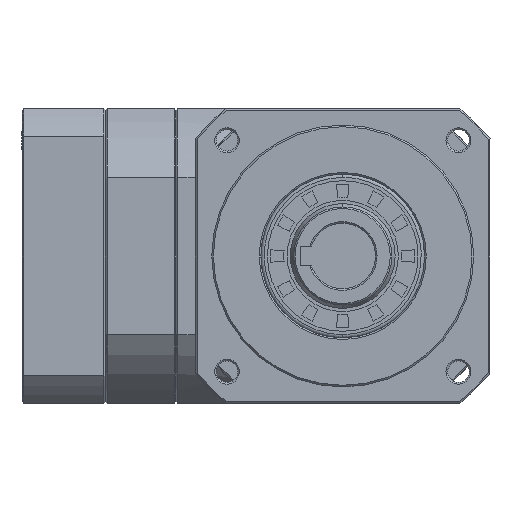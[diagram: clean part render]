
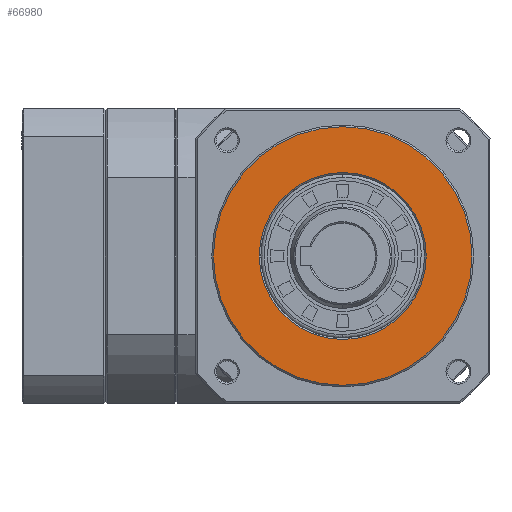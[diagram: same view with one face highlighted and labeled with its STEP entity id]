
A CAD part, left-side view. The second image highlights one B-rep face of the part: STEP entity #66980.
In plain terms, the highlighted planar face has unit normal (-1, 0, 0).
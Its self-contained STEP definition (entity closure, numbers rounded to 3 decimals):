
#1369 = ORIENTED_EDGE ( 'NONE', *, *, #15078, .F. ) ;
#3309 = AXIS2_PLACEMENT_3D ( 'NONE', #13825, #47667, #27480 ) ;
#7196 = FACE_OUTER_BOUND ( 'NONE', #34496, .T. ) ;
#9259 = CIRCLE ( 'NONE', #3309, 39.5 ) ;
#9471 = DIRECTION ( 'NONE',  ( 0., 0., 1. ) ) ;
#12058 = CARTESIAN_POINT ( 'NONE',  ( 0., 0., 39.5 ) ) ;
#13559 = DIRECTION ( 'NONE',  ( 0., 0., 1. ) ) ;
#13825 = CARTESIAN_POINT ( 'NONE',  ( 0., 0., 0. ) ) ;
#15078 = EDGE_CURVE ( 'NONE', #85065, #21469, #24637, .T. ) ;
#17002 = VERTEX_POINT ( 'NONE', #79479 ) ;
#21469 = VERTEX_POINT ( 'NONE', #84766 ) ;
#23231 = DIRECTION ( 'NONE',  ( -1., 0., 0. ) ) ;
#24637 = CIRCLE ( 'NONE', #84249, 25.5 ) ;
#26706 = PLANE ( 'NONE',  #54816 ) ;
#27480 = DIRECTION ( 'NONE',  ( 0., 0., -1. ) ) ;
#27582 = DIRECTION ( 'NONE',  ( 1., 0., 0. ) ) ;
#27898 = ORIENTED_EDGE ( 'NONE', *, *, #35985, .T. ) ;
#34496 = EDGE_LOOP ( 'NONE', ( #52202, #27898 ) ) ;
#35898 = CARTESIAN_POINT ( 'NONE',  ( 0., 0., 0. ) ) ;
#35985 = EDGE_CURVE ( 'NONE', #57656, #17002, #9259, .T. ) ;
#39958 = EDGE_CURVE ( 'NONE', #17002, #57656, #49399, .T. ) ;
#40199 = FACE_BOUND ( 'NONE', #72582, .T. ) ;
#44881 = DIRECTION ( 'NONE',  ( 0., 0., -1. ) ) ;
#47258 = ORIENTED_EDGE ( 'NONE', *, *, #48616, .F. ) ;
#47667 = DIRECTION ( 'NONE',  ( -1., 0., 0. ) ) ;
#47766 = CARTESIAN_POINT ( 'NONE',  ( 0., -39.974, 39.974 ) ) ;
#48053 = DIRECTION ( 'NONE',  ( 0., 0., -1. ) ) ;
#48616 = EDGE_CURVE ( 'NONE', #21469, #85065, #50284, .T. ) ;
#49399 = CIRCLE ( 'NONE', #64323, 39.5 ) ;
#49594 = DIRECTION ( 'NONE',  ( -1., 0., 0. ) ) ;
#50284 = CIRCLE ( 'NONE', #86972, 25.5 ) ;
#50554 = CARTESIAN_POINT ( 'NONE',  ( 0., 0., 0. ) ) ;
#52202 = ORIENTED_EDGE ( 'NONE', *, *, #39958, .T. ) ;
#54816 = AXIS2_PLACEMENT_3D ( 'NONE', #47766, #27582, #48053 ) ;
#57656 = VERTEX_POINT ( 'NONE', #12058 ) ;
#61061 = CARTESIAN_POINT ( 'NONE',  ( 0., 0., 0. ) ) ;
#64323 = AXIS2_PLACEMENT_3D ( 'NONE', #50554, #23231, #44881 ) ;
#66980 = ADVANCED_FACE ( 'NONE', ( #40199, #7196 ), #26706, .F. ) ;
#72582 = EDGE_LOOP ( 'NONE', ( #1369, #47258 ) ) ;
#72947 = CARTESIAN_POINT ( 'NONE',  ( 0., 0., 25.5 ) ) ;
#73552 = DIRECTION ( 'NONE',  ( -1., 0., 0. ) ) ;
#79479 = CARTESIAN_POINT ( 'NONE',  ( 0., 0., -39.5 ) ) ;
#84249 = AXIS2_PLACEMENT_3D ( 'NONE', #61061, #73552, #13559 ) ;
#84766 = CARTESIAN_POINT ( 'NONE',  ( 0., 0., -25.5 ) ) ;
#85065 = VERTEX_POINT ( 'NONE', #72947 ) ;
#86972 = AXIS2_PLACEMENT_3D ( 'NONE', #35898, #49594, #9471 ) ;
